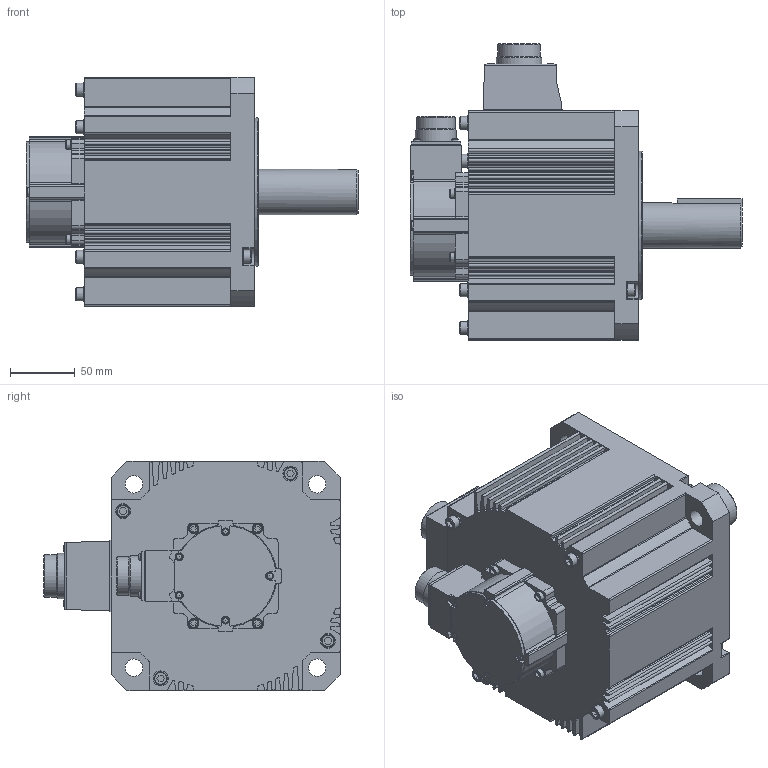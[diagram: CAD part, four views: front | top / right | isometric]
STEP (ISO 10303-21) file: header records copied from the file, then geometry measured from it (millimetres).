
FILE_DESCRIPTION(/* description */ ('STEP AP203'),/* implementation_level */ '2;1');
FILE_NAME(/* name */ 'MHMF302L1G6 2JL10',/* time_stamp */ '2023-07-07T11:12:26+02:00',/* author */ ('License CC BY-ND 4.0'),/* organization */ ('CADENAS'),/* preprocessor_version */ 'ST-DEVELOPER v19.3',/* originating_system */ 'PARTsolutions',/* authorisation */ ' ');
FILE_SCHEMA (('CONFIG_CONTROL_DESIGN'));
Length unit declared in the file: millimetre
Products named in the file (2): MHMF302L1G6 2JL10; MHMF302L1G6 _body
Assembly tree (1 placements, depth 2):
  MHMF302L1G6 2JL10
    MHMF302L1G6 _body
Bounding box: 256 x 228.3 x 176.6 mm (x, y, z)
Volume: 4119311.8 mm3; surface area: 230273.9 mm2
Topology: 1 solids, 1 shells, 608 faces, 1640 edges, 1079 vertices
Faces by surface type: plane 287, cylinder 266, cone 24, torus 18, sphere 13
Full cylindrical faces by diameter (mm): 2.459 x1, 5.6 x5, 7 x4, 8 x4, 10 x8, 11.5 x8, 13.5 x4, 29.75 x1, 31.75 x1, 33 x1, 35 x2, 52 x1, 58 x1, 67 x1, 105 x1, 114.3 x1
Entity records: 18519 total; most frequent: CARTESIAN_POINT 3323, DIRECTION 3251, ORIENTED_EDGE 3022, EDGE_CURVE 1511, AXIS2_PLACEMENT_3D 1169, VERTEX_POINT 1044, LINE 913, VECTOR 913
